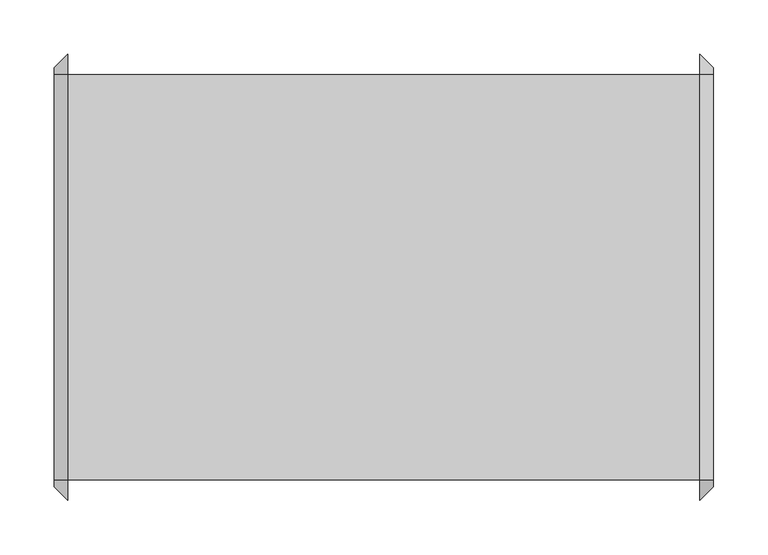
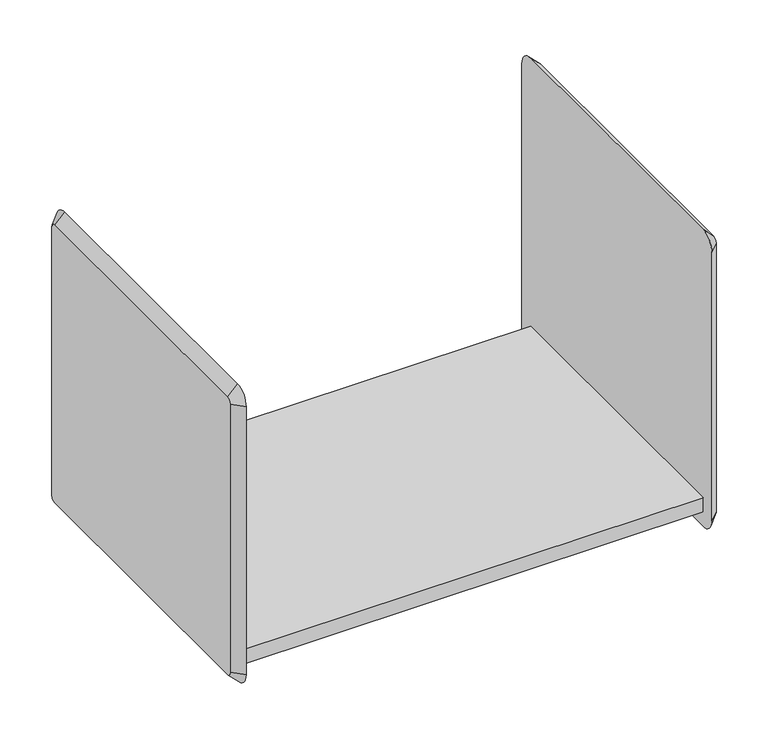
"""IFC4 building model written with IfcOpenShell, lengths in millimetres: furniture geometry, HermanMiller_ActionOffice_A3210_B-StyleShelf : 15-1/2H 16D 24W."""

from ifc_helpers import new_model, si_unit, frame, origin, place, context, project, spatial, polyline, circle_curve, outline, extrude, source, transform, mapped, element, save
from ifc_brep_helpers import plane_surface, revolved_surface, advanced_brep


def furniture_0d076a1c(model_context):
    return source(origin(), model_context, "Body", "SolidModel", [
        extrude(outline(polyline([(168.1579955, 200.025), (168.1579955, 196.85), (-416.0420045, 196.85), (-416.0420045, 200.025), (168.1579955, 200.025)])), frame((0.0, 0.0, 709.2018113), z_axis=(0.0, 0.0, 1.0), x_axis=(1.0, 0.0, 0.0)), (0.0, 0.0, 1.0), 15.9097687),
        extrude(outline(polyline([(-174.625, 728.28658), (200.025, 728.28658), (200.025, 725.11158), (-171.45, 725.11158), (-171.45, 709.2018113), (-174.625, 709.2018113), (-174.625, 728.28658)])), frame((-416.0420045, 0.0, 0.0), z_axis=(1.0, 0.0, 0.0), x_axis=(0.0, 1.0, 0.0)), (0.0, 0.0, 1.0), 584.2),
        advanced_brep(
        [(180.8579955, 200.025, 1071.18658), (180.8579955, -174.625, 1071.18658), (180.8579955, -180.975, 1064.83658), (180.8579955, -180.975, 709.23658), (180.8579955, -174.625, 702.88658), (180.8579955, 200.025, 702.88658), (180.8579955, 206.375, 709.23658), (180.8579955, 206.375, 1064.83658), (168.1579955, 200.025, 1083.88658), (168.1579955, 219.075, 1064.83658), (168.1579955, 219.075, 709.23658), (168.1579955, 200.025, 690.18658), (168.1579955, -174.625, 690.18658), (168.1579955, -193.675, 709.23658), (168.1579955, -193.675, 1064.83658), (168.1579955, -174.625, 1083.88658)],
        [
            (0, 1),
            (1, 2, circle_curve(frame((180.8579955, -174.625, 1064.83658), z_axis=(1.0, 0.0, 0.0), x_axis=(0.0, 0.0, 1.0)), 6.35)),
            (2, 3),
            (3, 4, circle_curve(frame((180.8579955, -174.625, 709.23658), z_axis=(1.0, 0.0, 0.0), x_axis=(0.0, -1.0, 0.0)), 6.35)),
            (4, 5),
            (5, 6, circle_curve(frame((180.8579955, 200.025, 709.23658), z_axis=(1.0, 0.0, 0.0), x_axis=(0.0, 0.0, -1.0)), 6.35)),
            (6, 7),
            (7, 0, circle_curve(frame((180.8579955, 200.025, 1064.83658), z_axis=(1.0, 0.0, 0.0), x_axis=(0.0, 1.0, 0.0)), 6.35)),
            (8, 9, circle_curve(frame((168.1579955, 200.025, 1064.83658), z_axis=(-1.0, 0.0, 0.0), x_axis=(0.0, 1.0, 0.0)), 19.05)),
            (9, 10),
            (10, 11, circle_curve(frame((168.1579955, 200.025, 709.23658), z_axis=(-1.0, 0.0, 0.0), x_axis=(0.0, 0.0, -1.0)), 19.05)),
            (11, 12),
            (12, 13, circle_curve(frame((168.1579955, -174.625, 709.23658), z_axis=(-1.0, 0.0, 0.0), x_axis=(0.0, -1.0, 0.0)), 19.05)),
            (13, 14),
            (14, 15, circle_curve(frame((168.1579955, -174.625, 1064.83658), z_axis=(-1.0, 0.0, 0.0), x_axis=(0.0, 0.0, 1.0)), 19.05)),
            (15, 8),
            (15, 1),
            (0, 8),
            (14, 2),
            (13, 3),
            (12, 4),
            (11, 5),
            (10, 6),
            (9, 7),
        ],
        [
            plane_surface(frame((180.8579955, 12.7, 887.03658), z_axis=(1.0, 0.0, 0.0), x_axis=(0.0, -1.0, 0.0))),
            plane_surface(frame((168.1579955, 12.7, 887.03658), z_axis=(-1.0, 0.0, 0.0), x_axis=(0.0, -1.0, 0.0))),
            plane_surface(frame((168.1579955, 12.7, 1083.88658), z_axis=(0.707106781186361, 0.0, 0.7071067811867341), x_axis=(0.0, -1.0, 0.0))),
            revolved_surface(polyline([(180.8579955, -174.625, 1071.18658), (168.1579955, -174.625, 1083.88658)]), (187.2079955, -174.625, 1064.83658), (-1.0, 0.0, 0.0)),
            plane_surface(frame((168.1579955, -193.675, 887.03658), z_axis=(0.7071067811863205, -0.7071067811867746, 0.0), x_axis=(0.0, 0.0, -1.0))),
            revolved_surface(polyline([(180.8579955, -180.97500000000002, 709.23658), (168.1579955, -193.675, 709.23658)]), (187.2079955, -174.625, 709.23658), (-1.0, 0.0, 0.0)),
            plane_surface(frame((168.1579955, 12.7, 690.18658), z_axis=(0.707106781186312, 0.0, -0.707106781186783), x_axis=(0.0, 1.0, 0.0))),
            revolved_surface(polyline([(180.8579955, 200.025, 702.88658), (168.1579955, 200.025, 690.18658)]), (187.2079955, 200.025, 709.23658), (-1.0, 0.0, 0.0)),
            plane_surface(frame((168.1579955, 219.075, 887.03658), z_axis=(0.7071067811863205, 0.7071067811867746, 0.0), x_axis=(0.0, 0.0, 1.0))),
            revolved_surface(polyline([(180.8579955, 206.37500000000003, 1064.83658), (168.1579955, 219.075, 1064.83658)]), (187.2079955, 200.025, 1064.83658), (-1.0, 0.0, 0.0)),
        ],
        [
            (0, [[1, 2, 3, 4, 5, 6, 7, 8]]),
            (1, [[9, 10, 11, 12, 13, 14, 15, 16]]),
            (2, [[-16, 17, -1, 18]]),
            (3, [[-15, 19, -2, -17]]),
            (4, [[-14, 20, -3, -19]]),
            (5, [[-13, 21, -4, -20]]),
            (6, [[-12, 22, -5, -21]]),
            (7, [[-11, 23, -6, -22]]),
            (8, [[-10, 24, -7, -23]]),
            (9, [[-9, -18, -8, -24]]),
        ],
    ),
        advanced_brep(
        [(-428.7420045, -174.625, 1071.18658), (-428.7420045, 200.025, 1071.18658), (-428.7420045, 206.375, 1064.83658), (-428.7420045, 206.375, 709.23658), (-428.7420045, 200.025, 702.88658), (-428.7420045, -174.625, 702.88658), (-428.7420045, -180.975, 709.23658), (-428.7420045, -180.975, 1064.83658), (-416.0420045, -174.625, 1083.88658), (-416.0420045, -193.675, 1064.83658), (-416.0420045, -193.675, 709.23658), (-416.0420045, -174.625, 690.18658), (-416.0420045, 200.025, 690.18658), (-416.0420045, 219.075, 709.23658), (-416.0420045, 219.075, 1064.83658), (-416.0420045, 200.025, 1083.88658)],
        [
            (0, 1),
            (1, 2, circle_curve(frame((-428.7420045, 200.025, 1064.83658), z_axis=(-1.0, -1.881161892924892e-12, -1.8012258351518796e-12), x_axis=(-1.8012100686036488e-12, 0.0, 1.0)), 6.35)),
            (2, 3),
            (3, 4, circle_curve(frame((-428.7420045, 200.025, 709.23658), z_axis=(-1.0, 0.0, 0.0), x_axis=(0.0, 1.0, 0.0)), 6.35)),
            (4, 5),
            (5, 6, circle_curve(frame((-428.7420045, -174.625, 709.23658), z_axis=(-1.0, 0.0, 0.0), x_axis=(0.0, 0.0, -1.0)), 6.35)),
            (6, 7),
            (7, 0, circle_curve(frame((-428.7420045, -174.625, 1064.83658), z_axis=(-1.0, -1.875832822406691e-12, 1.971756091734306e-12), x_axis=(1.8757894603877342e-12, -1.0, 0.0)), 6.35)),
            (8, 9, circle_curve(frame((-416.0420045, -174.625, 1064.83658), z_axis=(1.0, 1.875832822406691e-12, -1.971756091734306e-12), x_axis=(1.8757894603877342e-12, -1.0, 0.0)), 19.05)),
            (9, 10),
            (10, 11, circle_curve(frame((-416.0420045, -174.625, 709.23658), z_axis=(1.0, 0.0, 0.0), x_axis=(0.0, 0.0, -1.0)), 19.05)),
            (11, 12),
            (12, 13, circle_curve(frame((-416.0420045, 200.025, 709.23658), z_axis=(1.0, 0.0, 0.0), x_axis=(0.0, 1.0, 0.0)), 19.05)),
            (13, 14),
            (14, 15, circle_curve(frame((-416.0420045, 200.025, 1064.83658), z_axis=(1.0, 1.881161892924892e-12, 1.8012258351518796e-12), x_axis=(-1.8012100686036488e-12, 0.0, 1.0)), 19.05)),
            (15, 8),
            (15, 1),
            (0, 8),
            (14, 2),
            (13, 3),
            (12, 4),
            (11, 5),
            (10, 6),
            (9, 7),
        ],
        [
            plane_surface(frame((-428.7420045, 12.7, 887.03658), z_axis=(-1.0, 0.0, 0.0), x_axis=(0.0, -1.0, 0.0))),
            plane_surface(frame((-416.0420045, 12.7, 887.03658), z_axis=(1.0, 0.0, 0.0), x_axis=(0.0, -1.0, 0.0))),
            plane_surface(frame((-416.0420045, 12.7, 1083.88658), z_axis=(-0.7071067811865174, 0.0, 0.7071067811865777), x_axis=(0.0, 1.0, 0.0))),
            revolved_surface(polyline([(-428.74200450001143, 200.025, 1071.1865799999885), (-416.0420044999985, 200.025, 1083.8865800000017)]), (-435.0920045, 200.025, 1064.83658), (1.0, 1.881161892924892e-12, 1.8012258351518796e-12)),
            plane_surface(frame((-416.0420045, 219.075, 887.03658), z_axis=(-0.7071067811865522, 0.7071067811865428, 0.0), x_axis=(0.0, 0.0, -1.0))),
            revolved_surface(polyline([(-428.7420045, 206.37499999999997, 709.23658), (-416.0420045, 219.075, 709.23658)]), (-435.0920045, 200.025, 709.23658), (1.0, 0.0, 0.0)),
            plane_surface(frame((-416.0420045, 12.7, 690.18658), z_axis=(-0.7071067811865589, 0.0, -0.7071067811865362), x_axis=(0.0, -1.0, 0.0))),
            revolved_surface(polyline([(-428.7420045, -174.625, 702.8865800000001), (-416.0420045, -174.625, 690.18658)]), (-435.0920045, -174.625, 709.23658), (1.0, 0.0, 0.0)),
            plane_surface(frame((-416.0420045, -193.675, 887.03658), z_axis=(-0.7071067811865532, -0.7071067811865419, 0.0), x_axis=(0.0, 0.0, 1.0))),
            revolved_surface(polyline([(-428.74200450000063, -180.97499999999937, 1064.83658), (-416.04200449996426, -193.67500000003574, 1064.83658)]), (-435.0920045, -174.625, 1064.83658), (1.0, 1.875832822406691e-12, -1.971756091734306e-12)),
        ],
        [
            (0, [[1, 2, 3, 4, 5, 6, 7, 8]]),
            (1, [[9, 10, 11, 12, 13, 14, 15, 16]]),
            (2, [[-16, 17, -1, 18]]),
            (3, [[-15, 19, -2, -17]]),
            (4, [[-14, 20, -3, -19]]),
            (5, [[-13, 21, -4, -20]]),
            (6, [[-12, 22, -5, -21]]),
            (7, [[-11, 23, -6, -22]]),
            (8, [[-10, 24, -7, -23]]),
            (9, [[-9, -18, -8, -24]]),
        ],
    ),
    ])


if __name__ == "__main__":
    model = new_model("IFC4")
    model_context = context("Model", 3, world=origin())
    ifc_project = project(units=[si_unit("LENGTHUNIT", "METRE", prefix="MILLI")], contexts=[model_context])
    site = spatial("IfcSite", under=ifc_project)
    building = spatial("IfcBuilding", under=site)
    placement = place(None, origin())
    furniture_shape = furniture_0d076a1c(model_context)
    element("IfcFurniture", 1, ObjectType="HermanMiller_ActionOffice_A3210_B-StyleShelf : 15-1/2H 16D 24W", at=placement, inside=building, context=model_context, shape_type="MappedRepresentation", body=[
        mapped(furniture_shape, transform((0.0, 0.0, 0.0), x_axis=(1.0, 0.0, 0.0), y_axis=(0.0, 1.0, 0.0), z_axis=(0.0, 0.0, 1.0))),
    ])
    save(model, "model.ifc")
